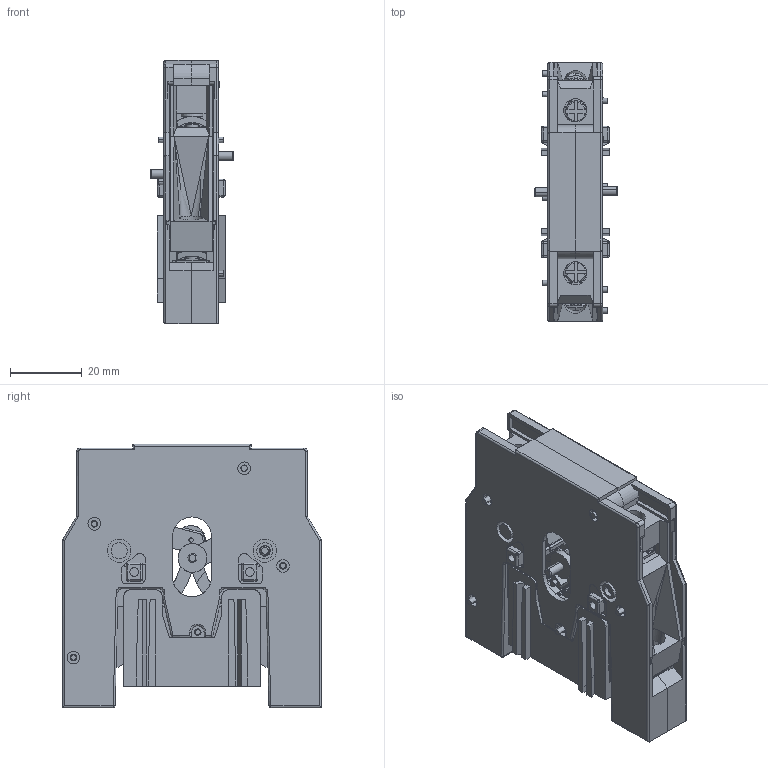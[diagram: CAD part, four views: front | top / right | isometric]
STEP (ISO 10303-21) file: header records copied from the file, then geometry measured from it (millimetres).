
FILE_DESCRIPTION (( 'STEP AP214' ), '1' );
FILE_NAME ('FJ1.STEP', '2026-01-30T09:52:07', ( '' ), ( '' ), 'SwSTEP 2.0', 'SolidWorks 2024', '' );
FILE_SCHEMA (( 'AUTOMOTIVE_DESIGN' ));
Length unit declared in the file: millimetre
Products named in the file (28): 8ABB_557_6059.stp; FJ1 (1).stp; 8ABB_282_6064_AF1.stp; FJ1; 8ABB_206_6100.stp; 8ABB_005_6078.stp; 8ABB_282_6065_AF0.stp; 8ABB_050_6041.stp; 8ABB_232_6022.stp; 8ABB_557_6060.stp; 3ZBW-1-002.stp; 8ABB_300_6114.stp; 5ABB_550_6054_ASM.stp; 8ABB_550_6075.stp; 8ABB_557_6058.stp; 8ABB_557_6061.stp; 8ABB_585_6150.stp; 8ABB_206_6101.stp; 5ABB_553_6018_ASM.stp; 5ABB_550_6056_ASM.stp; 5ABB_232_6020_ASM.stp; 8ABB_550_6076.stp; 5ABB_550_6055_ASM.stp; 5ABB_550_6057_ASM.stp; 5ABB_232_6021_ASM.stp; 8ABB_282_6065_AF1.stp; 8ABB_553_6017.stp; 8ABB_282_6064_AF0.stp
Assembly tree (41 placements, depth 5):
  FJ1
    FJ1 (1).stp
      5ABB_550_6054_ASM.stp
        8ABB_557_6058.stp
        8ABB_550_6076.stp
      5ABB_550_6056_ASM.stp
        8ABB_557_6060.stp
        8ABB_550_6076.stp
      5ABB_550_6055_ASM.stp
        8ABB_557_6059.stp
        8ABB_550_6076.stp
      5ABB_550_6057_ASM.stp
        8ABB_557_6061.stp
        8ABB_550_6076.stp
      5ABB_232_6020_ASM.stp
        5ABB_553_6018_ASM.stp
          8ABB_553_6017.stp
          8ABB_550_6075.stp  x2
        8ABB_232_6022.stp
        8ABB_050_6041.stp
        8ABB_206_6100.stp
        8ABB_206_6101.stp
        8ABB_282_6064_AF0.stp
      5ABB_232_6021_ASM.stp
        5ABB_553_6018_ASM.stp
          8ABB_553_6017.stp
          8ABB_550_6075.stp  x2
        8ABB_232_6022.stp
        8ABB_050_6041.stp
        8ABB_206_6100.stp
        8ABB_206_6101.stp
        8ABB_282_6064_AF1.stp
      8ABB_005_6078.stp  x2
      8ABB_300_6114.stp  x2
      3ZBW-1-002.stp  x4
      8ABB_282_6065_AF0.stp
      8ABB_282_6065_AF1.stp
      8ABB_585_6150.stp
Bounding box: 23 x 71.9 x 73.2 mm (x, y, z)
Volume: 32567.8 mm3; surface area: 54560.1 mm2
Topology: 29 solids, 45 shells, 3591 faces, 9326 edges, 5952 vertices
Faces by surface type: plane 2371, cylinder 872, torus 118, bspline 106, cone 88, sphere 36
Entity records: 74825 total; most frequent: CARTESIAN_POINT 24301, ORIENTED_EDGE 10444, DIRECTION 9980, EDGE_CURVE 5232, VECTOR 3914, LINE 3914, VERTEX_POINT 3367, AXIS2_PLACEMENT_3D 3033
